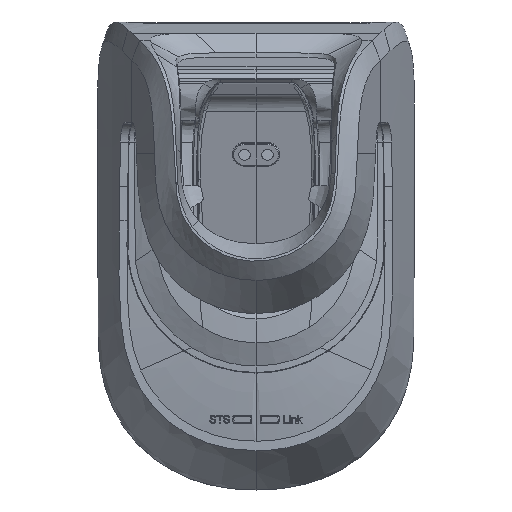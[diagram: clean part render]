
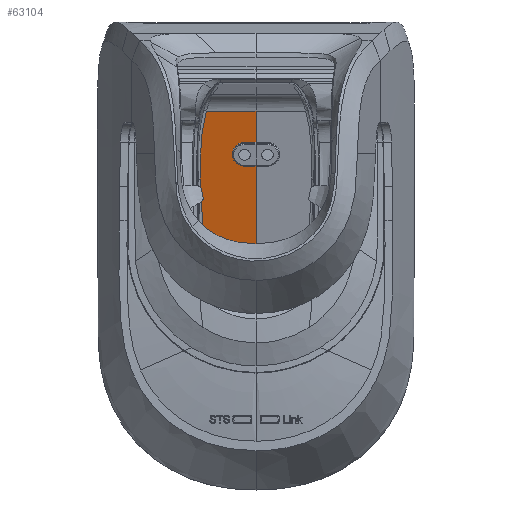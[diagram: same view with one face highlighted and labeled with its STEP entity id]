
A CAD part, top view. The second image highlights one B-rep face of the part: STEP entity #63104.
In plain terms, the highlighted planar face has unit normal (0, -0.259, 0.966).
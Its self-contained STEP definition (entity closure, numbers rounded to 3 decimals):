
#43190=DIRECTION('',(-1.,0.,0.));
#43191=VECTOR('',#43190,2.978);
#43192=CARTESIAN_POINT('',(0.002,32.482,
29.499));
#43193=LINE('',#43192,#43191);
#43203=DIRECTION('',(1.,0.,0.));
#43204=VECTOR('',#43203,1.998);
#43205=CARTESIAN_POINT('',(-1.997,3.765,
21.804));
#43206=LINE('',#43205,#43204);
#43207=CARTESIAN_POINT('',(-14.475,22.95,
26.945));
#43208=CARTESIAN_POINT('',(-14.49,21.817,
26.642));
#43209=CARTESIAN_POINT('',(-14.473,19.552,
26.035));
#43210=CARTESIAN_POINT('',(-14.255,12.725,
24.205));
#43211=CARTESIAN_POINT('',(-13.868,7.039,
22.682));
#43212=CARTESIAN_POINT('',(-13.483,2.489,
21.463));
#43214=CARTESIAN_POINT('',(-12.918,40.62,
31.68));
#43215=CARTESIAN_POINT('',(-13.,40.362,
31.611));
#43216=CARTESIAN_POINT('',(-13.153,39.843,
31.472));
#43217=CARTESIAN_POINT('',(-13.356,39.058,
31.261));
#43218=CARTESIAN_POINT('',(-13.535,38.268,
31.05));
#43219=CARTESIAN_POINT('',(-13.745,37.208,
30.766));
#43220=CARTESIAN_POINT('',(-13.957,35.875,
30.408));
#43221=CARTESIAN_POINT('',(-14.15,34.268,
29.978));
#43222=CARTESIAN_POINT('',(-14.287,32.655,
29.546));
#43223=CARTESIAN_POINT('',(-14.378,31.039,
29.113));
#43224=CARTESIAN_POINT('',(-14.432,29.422,
28.679));
#43225=CARTESIAN_POINT('',(-14.457,27.804,
28.246));
#43226=CARTESIAN_POINT('',(-14.463,26.455,
27.884));
#43227=CARTESIAN_POINT('',(-14.463,25.377,
27.595));
#43228=CARTESIAN_POINT('',(-14.463,24.568,
27.379));
#43229=CARTESIAN_POINT('',(-14.465,23.893,
27.198));
#43230=CARTESIAN_POINT('',(-14.469,23.354,
27.053));
#43231=CARTESIAN_POINT('',(-14.473,23.084,
26.981));
#43232=CARTESIAN_POINT('',(-14.475,22.95,
26.945));
#43234=CARTESIAN_POINT('',(-2.977,29.391,
28.671));
#43235=DIRECTION('',(0.,0.259,-0.966));
#43236=DIRECTION('',(0.,-0.966,
-0.259));
#43237=AXIS2_PLACEMENT_3D('',#43234,#43235,#43236);
#43253=DIRECTION('',(1.,0.,0.));
#43254=VECTOR('',#43253,2.978);
#43255=CARTESIAN_POINT('',(-2.977,26.3,
27.843));
#43256=LINE('',#43255,#43254);
#43341=DIRECTION('',(0.,-0.966,-0.259));
#43342=VECTOR('',#43341,23.33);
#43343=CARTESIAN_POINT('',(0.002,26.3,
27.843));
#43344=LINE('',#43343,#43342);
#43350=DIRECTION('',(0.,-0.966,-0.259));
#43351=VECTOR('',#43350,8.425);
#43352=CARTESIAN_POINT('',(0.002,40.62,
31.68));
#43353=LINE('',#43352,#43351);
#43780=DIRECTION('',(1.,0.,0.));
#43781=VECTOR('',#43780,12.92);
#43782=CARTESIAN_POINT('',(-12.918,40.62,
31.68));
#43783=LINE('',#43782,#43781);
#43789=CARTESIAN_POINT('',(-12.918,40.62,
31.68));
#43805=CARTESIAN_POINT('',(-14.475,22.95,
26.945));
#44392=DIRECTION('',(-1.,0.,0.));
#44393=VECTOR('',#44392,8.541);
#44394=CARTESIAN_POINT('',(-4.942,2.489,
21.463));
#44395=LINE('',#44394,#44393);
#44438=CARTESIAN_POINT('',(-4.942,2.489,
21.463));
#44439=CARTESIAN_POINT('',(-4.753,2.69,
21.517));
#44440=CARTESIAN_POINT('',(-4.341,3.047,
21.612));
#44441=CARTESIAN_POINT('',(-3.635,3.451,
21.72));
#44442=CARTESIAN_POINT('',(-2.79,3.716,
21.791));
#44443=CARTESIAN_POINT('',(-2.263,3.765,
21.804));
#44444=CARTESIAN_POINT('',(-1.997,3.765,
21.804));
#59481=VERTEX_POINT('',#43789);
#59579=VERTEX_POINT('',#43805);
#59580=VERTEX_POINT('',#43212);
#59583=VERTEX_POINT('',#44438);
#59584=VERTEX_POINT('',#44444);
#60834=CARTESIAN_POINT('',(0.002,32.482,
29.499));
#60835=VERTEX_POINT('',#60834);
#60917=CARTESIAN_POINT('',(-2.977,26.3,
27.843));
#60919=VERTEX_POINT('',#60917);
#60932=CARTESIAN_POINT('',(-2.977,32.482,
29.499));
#60933=VERTEX_POINT('',#60932);
#61272=CARTESIAN_POINT('',(0.002,40.62,
31.68));
#61274=VERTEX_POINT('',#61272);
#61457=CARTESIAN_POINT('',(0.002,3.765,
21.804));
#61458=VERTEX_POINT('',#61457);
#61459=CARTESIAN_POINT('',(0.002,26.3,
27.843));
#61460=VERTEX_POINT('',#61459);
#63076=CARTESIAN_POINT('',(-16.096,-1.509,
20.391));
#63077=DIRECTION('',(0.,-0.259,0.966));
#63078=DIRECTION('',(1.,0.,0.));
#63079=AXIS2_PLACEMENT_3D('',#63076,#63077,#63078);
#63080=PLANE('',#63079);
#63082=ORIENTED_EDGE('',*,*,#63081,.T.);
#63084=ORIENTED_EDGE('',*,*,#63083,.T.);
#63086=ORIENTED_EDGE('',*,*,#63085,.F.);
#63088=ORIENTED_EDGE('',*,*,#63087,.F.);
#63090=ORIENTED_EDGE('',*,*,#63089,.T.);
#63092=ORIENTED_EDGE('',*,*,#63091,.F.);
#63094=ORIENTED_EDGE('',*,*,#63093,.F.);
#63096=ORIENTED_EDGE('',*,*,#63095,.T.);
#63098=ORIENTED_EDGE('',*,*,#63097,.T.);
#63099=ORIENTED_EDGE('',*,*,#63066,.T.);
#63101=ORIENTED_EDGE('',*,*,#63100,.F.);
#63102=EDGE_LOOP('',(#63082,#63084,#63086,#63088,#63090,#63092,#63094,#63096,
#63098,#63099,#63101));
#63103=FACE_OUTER_BOUND('',#63102,.F.);
#63104=ADVANCED_FACE('',(#63103),#63080,.T.);
#43213=B_SPLINE_CURVE_WITH_KNOTS('',3,(#43207,#43208,#43209,#43210,#43211,
#43212),.UNSPECIFIED.,.F.,.F.,(4,1,1,4),(0.,0.166,
0.332,1.),.UNSPECIFIED.);
#43233=B_SPLINE_CURVE_WITH_KNOTS('',3,(#43214,#43215,#43216,#43217,#43218,
#43219,#43220,#43221,#43222,#43223,#43224,#43225,#43226,#43227,#43228,#43229,
#43230,#43231,#43232),.UNSPECIFIED.,.F.,.F.,(4,1,1,1,1,1,1,1,1,1,1,1,1,1,1,1,4),
(0.,0.045,0.091,0.136,0.182,
0.273,0.364,0.455,0.545,
0.636,0.727,0.818,0.864,
0.909,0.955,0.977,1.),.UNSPECIFIED.);
#43238=CIRCLE('',#43237,3.2);
#44445=B_SPLINE_CURVE_WITH_KNOTS('',3,(#44438,#44439,#44440,#44441,#44442,
#44443,#44444),.UNSPECIFIED.,.F.,.F.,(4,1,1,1,4),(0.,0.25,0.5,0.75,
1.),.UNSPECIFIED.);
#63066=EDGE_CURVE('',#60835,#60933,#43193,.T.);
#63081=EDGE_CURVE('',#60919,#61460,#43256,.T.);
#63083=EDGE_CURVE('',#61460,#61458,#43344,.T.);
#63085=EDGE_CURVE('',#59584,#61458,#43206,.T.);
#63087=EDGE_CURVE('',#59583,#59584,#44445,.T.);
#63089=EDGE_CURVE('',#59583,#59580,#44395,.T.);
#63091=EDGE_CURVE('',#59579,#59580,#43213,.T.);
#63093=EDGE_CURVE('',#59481,#59579,#43233,.T.);
#63095=EDGE_CURVE('',#59481,#61274,#43783,.T.);
#63097=EDGE_CURVE('',#61274,#60835,#43353,.T.);
#63100=EDGE_CURVE('',#60919,#60933,#43238,.T.);
